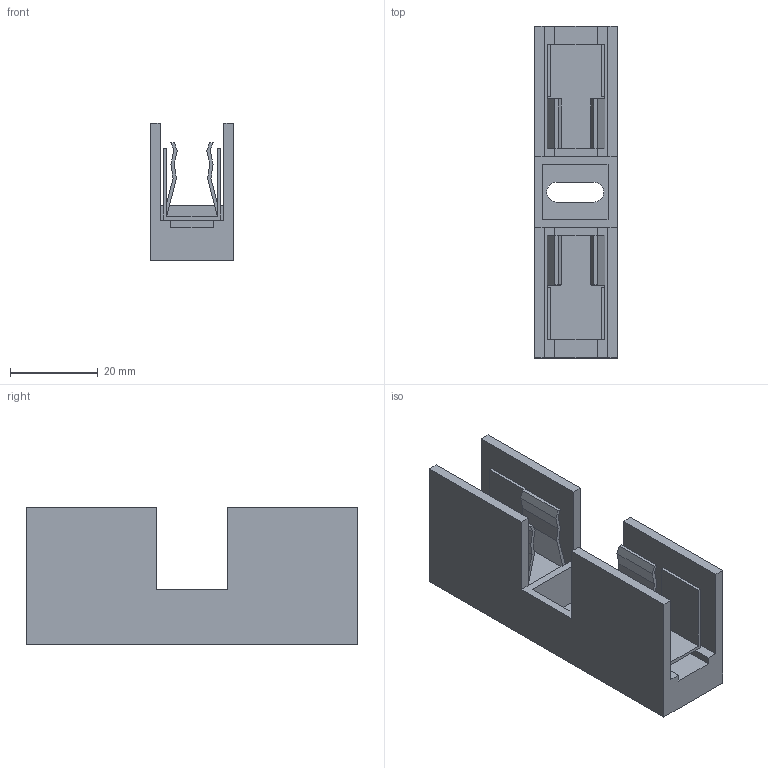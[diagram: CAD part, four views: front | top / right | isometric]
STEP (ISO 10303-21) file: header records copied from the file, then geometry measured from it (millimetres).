
FILE_DESCRIPTION(/* description */ (''),/* implementation_level */ '2;1');
FILE_NAME(/* name */ 'R:\Temp\J. Narvaez\IAN DRAWINGS\002 - Sensors\017 - MCS-VOLTAGE-1PH\MCS-FUSE-1PH-3D.stp',/* time_stamp */ '2022-11-14T09:57:36-05:00',/* author */ ('mjeter'),/* organization */ ('unknown'),/* preprocessor_version */ 'ST-DEVELOPER v19',/* originating_system */ 'Autodesk Inventor 2023',/* authorisation */ '');
FILE_SCHEMA (('AUTOMOTIVE_DESIGN { 1 0 10303 214 3 1 1 }'));
Length unit declared in the file: inch
Products named in the file (1): MCS-FUSE-1PH-3D
Bounding box: 18.95 x 75.56 x 31.42 mm (x, y, z)
Volume: 18880 mm3; surface area: 15787.8 mm2
Topology: 3 solids, 3 shells, 103 faces, 280 edges, 184 vertices
Faces by surface type: plane 101, cylinder 2
Entity records: 3239 total; most frequent: CARTESIAN_POINT 568, ORIENTED_EDGE 560, DIRECTION 492, EDGE_CURVE 280, LINE 276, VECTOR 276, VERTEX_POINT 184, AXIS2_PLACEMENT_3D 108
